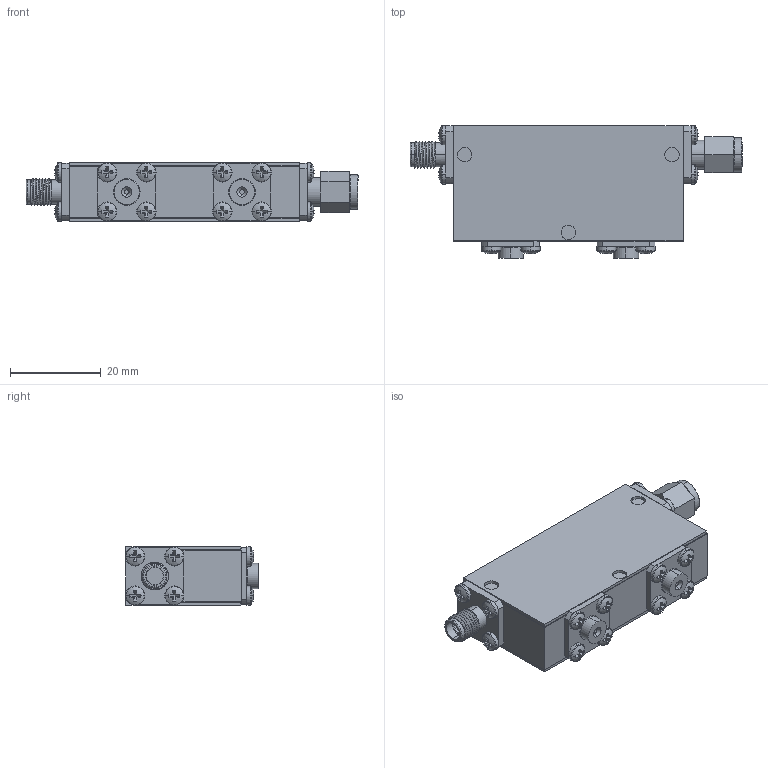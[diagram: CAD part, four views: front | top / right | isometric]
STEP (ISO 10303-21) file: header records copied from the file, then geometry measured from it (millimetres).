
FILE_DESCRIPTION (( 'STEP AP214' ), '1' );
FILE_NAME ('Package 14-2 Iso FM - Cryo Unshielded.STEP', '2023-12-19T23:54:12', ( '' ), ( '' ), 'SwSTEP 2.0', 'SolidWorks 2016', '' );
FILE_SCHEMA (( 'AUTOMOTIVE_DESIGN' ));
Length unit declared in the file: inch
Products named in the file (7): WR049; Delta SMA-Male; pan cross head_ai_CR-PHMS 0.086-56x0.125x0.125-N; Package 14-2 Iso FM - Cryo Unshielded; Delta SMA-Female 0.500 flange Threaded; Package Size 14; 030013-1A
Assembly tree (22 placements, depth 2):
  Package 14-2 Iso FM - Cryo Unshielded
    Delta SMA-Female 0.500 flange Threaded
    030013-1A  x2
    pan cross head_ai_CR-PHMS 0.086-56x0.125x0.125-N  x16
    Package Size 14
    WR049
    Delta SMA-Male
Bounding box: 73.2 x 29.3 x 12.88 mm (x, y, z)
Volume: 17986.6 mm3; surface area: 14085.1 mm2
Topology: 22 solids, 22 shells, 562 faces, 1289 edges, 797 vertices
Faces by surface type: plane 305, cylinder 170, torus 44, sphere 32, cone 8, bspline 3
Entity records: 6845 total; most frequent: CARTESIAN_POINT 1703, DIRECTION 1105, ORIENTED_EDGE 918, EDGE_CURVE 459, AXIS2_PLACEMENT_3D 447, VERTEX_POINT 295, EDGE_LOOP 252, CIRCLE 240
